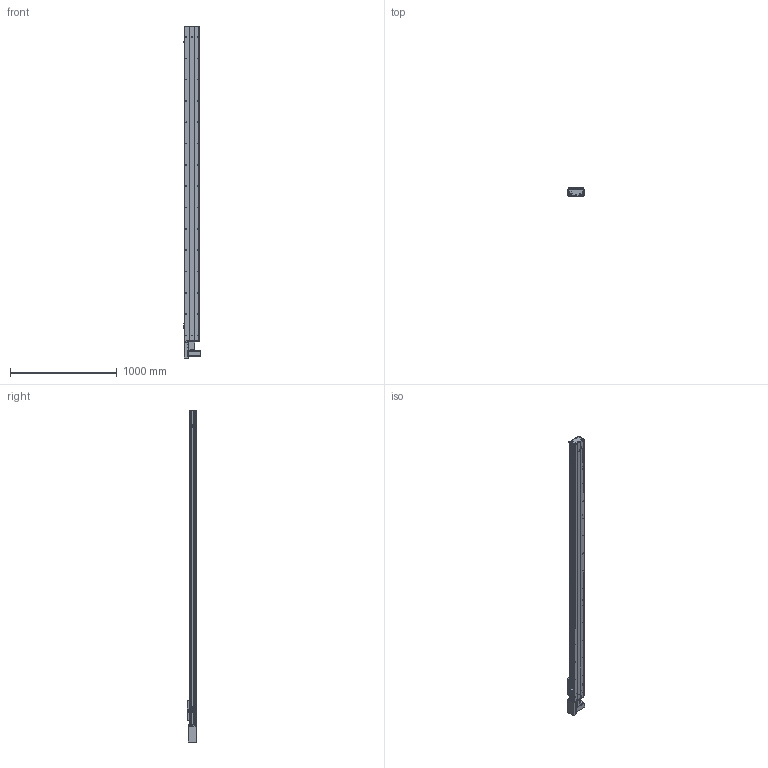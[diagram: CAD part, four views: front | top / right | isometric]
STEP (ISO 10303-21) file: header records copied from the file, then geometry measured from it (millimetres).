
FILE_DESCRIPTION (( 'STEP AP203' ), '1' );
FILE_NAME ('Y135CB-D90-S2650-BR-P400W.STEP', '2020-02-18T03:12:50', ( '微软用户' ), ( '微软中国' ), 'SwSTEP 2.0', 'SolidWorks 2017', '' );
FILE_SCHEMA (( 'CONFIG_CONTROL_DESIGN' ));
Length unit declared in the file: millimetre
Products named in the file (18): Y10B--々湍喘謫眊--666; san松下电机400不带刹车----; Y135CB-耜裔; Y135CB-D90-S2650-BR-P400W; 5CB --掛极耜裔啣-; 135CB---遴掛极.-; C-詩湍揤踡え-陔; 35CB---喘謫眊楊擘啣; 135CB--詩湍-CE; Y10B-耜蚾蟀諉啣----; Y100-135俋离換覜ん--; Y俋欶BR----; Y135C-陔俋离換覜結え-; 0B-埴倛裔啣; 5C--俋欶; 0B-源倛裔啣; C-雄赽釱--; 0B-萇儂楊擘啣
Assembly tree (21 placements, depth 2):
  Y135CB-D90-S2650-BR-P400W
    Y135CB-耜裔
    135CB---遴掛极.-
    35CB---喘謫眊楊擘啣
    Y10B-耜蚾蟀諉啣----
    Y俋欶BR----
    0B-埴倛裔啣
    0B-源倛裔啣
    0B-萇儂楊擘啣
    san松下电机400不带刹车----
    5CB --掛极耜裔啣-  x2
    C-詩湍揤踡え-陔  x2
    135CB--詩湍-CE
    Y100-135俋离換覜ん--  x3
    Y135C-陔俋离換覜結え-
    5C--俋欶
    C-雄赽釱--
    Y10B--々湍喘謫眊--666
Bounding box: 167.5 x 91 x 3114.5 mm (x, y, z)
Volume: 8672262.8 mm3; surface area: 3437461.3 mm2
Topology: 21 solids, 21 shells, 977 faces, 2671 edges, 1770 vertices
Faces by surface type: cylinder 503, plane 458, cone 16
Entity records: 30957 total; most frequent: CARTESIAN_POINT 5164, DIRECTION 5143, ORIENTED_EDGE 4818, EDGE_CURVE 2409, AXIS2_PLACEMENT_3D 1885, VERTEX_POINT 1598, VECTOR 1373, LINE 1373
